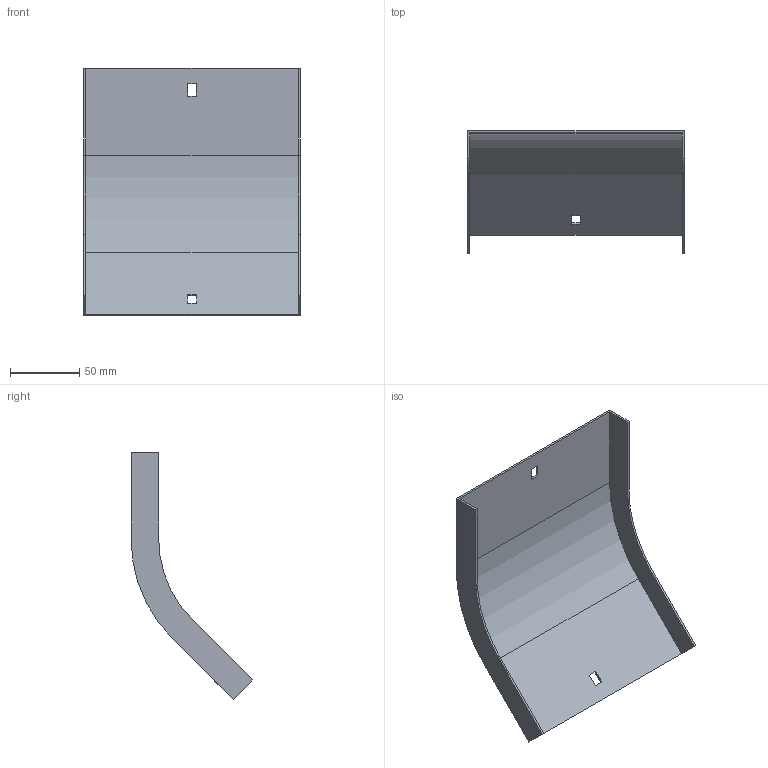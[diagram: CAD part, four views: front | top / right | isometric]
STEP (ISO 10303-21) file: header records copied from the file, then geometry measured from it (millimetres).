
FILE_DESCRIPTION (( 'STEP AP214' ), '1' );
FILE_NAME ('34G1C150.step', '2025-02-21T12:43:19', ( '' ), ( '' ), 'SwSTEP 2.0', 'SolidWorks 2023', '' );
FILE_SCHEMA (( 'AUTOMOTIVE_DESIGN' ));
Length unit declared in the file: millimetre
Products named in the file (1): 34G1C150
Bounding box: 157 x 88.23 x 178.86 mm (x, y, z)
Volume: 58924 mm3; surface area: 79810.5 mm2
Topology: 1 solids, 1 shells, 26 faces, 72 edges, 48 vertices
Faces by surface type: plane 22, cylinder 4
Entity records: 855 total; most frequent: CARTESIAN_POINT 147, ORIENTED_EDGE 144, DIRECTION 134, EDGE_CURVE 72, VECTOR 64, LINE 64, VERTEX_POINT 48, AXIS2_PLACEMENT_3D 35
